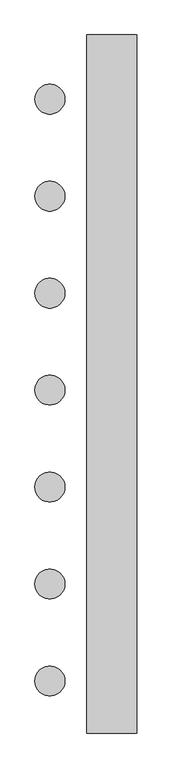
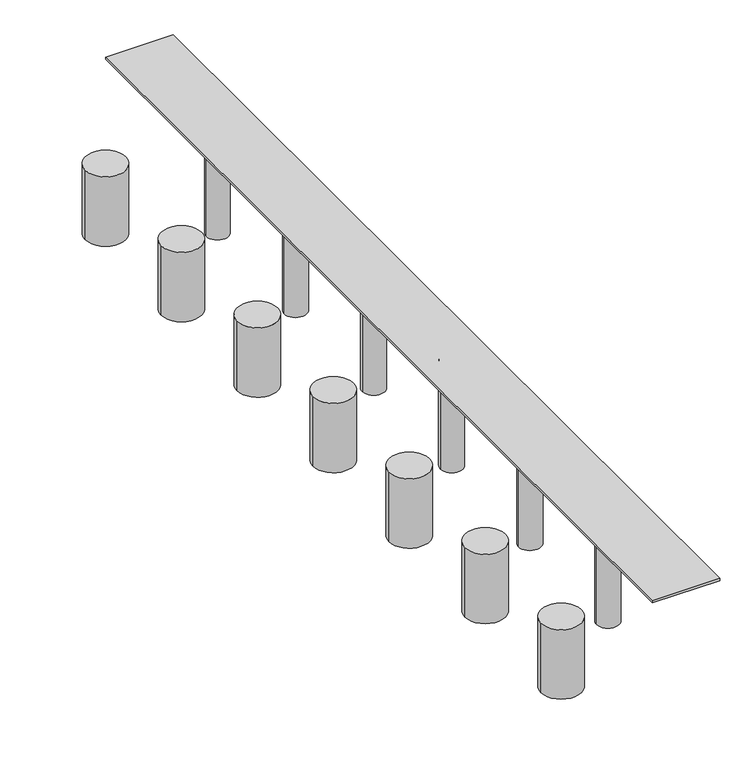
"""IFC4 building model written with IfcOpenShell, lengths in millimetres: proxy geometry, 常规模型 1 : 常规模型 1."""

from ifc_helpers import new_model, si_unit, point, frame, frame_2d, origin, origin_with_axes, place, context, project, spatial, polyline, circle_curve, trimmed, segment, composite_curve, outline, extrude, source, transform, mapped, element, save


def generic_models_b0d3c842(model_context):
    return source(origin(), model_context, "Body", "SweptSolid", [
        extrude(outline(composite_curve([segment(trimmed(circle_curve(frame_2d((26820.8784001, -5032.1006074)), 180.0), [point((26640.8784001, -5032.1006074))], [point((27000.8784001, -5032.1006074))], False, "CARTESIAN"), True, "CONTINUOUS"), segment(trimmed(circle_curve(frame_2d((26820.8784001, -5032.1006074)), 180.0), [point((27000.8784001, -5032.1006074))], [point((26640.8784001, -5032.1006074))], False, "CARTESIAN"), True, "CONTINUOUS")], self_intersect=False)), origin_with_axes(), (0.0, 0.0, 1.0), 650.0),
        extrude(outline(composite_curve([segment(trimmed(circle_curve(frame_2d((26820.8784001, -3865.4339407)), 180.0), [point((26640.8784001, -3865.4339407))], [point((27000.8784001, -3865.4339407))], False, "CARTESIAN"), True, "CONTINUOUS"), segment(trimmed(circle_curve(frame_2d((26820.8784001, -3865.4339407)), 180.0), [point((27000.8784001, -3865.4339407))], [point((26640.8784001, -3865.4339407))], False, "CARTESIAN"), True, "CONTINUOUS")], self_intersect=False)), origin_with_axes(), (0.0, 0.0, 1.0), 650.0),
        extrude(outline(composite_curve([segment(trimmed(circle_curve(frame_2d((26820.8784001, -2698.767274)), 180.0), [point((26640.8784001, -2698.767274))], [point((27000.8784001, -2698.767274))], False, "CARTESIAN"), True, "CONTINUOUS"), segment(trimmed(circle_curve(frame_2d((26820.8784001, -2698.767274)), 180.0), [point((27000.8784001, -2698.767274))], [point((26640.8784001, -2698.767274))], False, "CARTESIAN"), True, "CONTINUOUS")], self_intersect=False)), origin_with_axes(), (0.0, 0.0, 1.0), 650.0),
        extrude(outline(composite_curve([segment(trimmed(circle_curve(frame_2d((26820.8784001, -1532.1006074)), 180.0), [point((26640.8784001, -1532.1006074))], [point((27000.8784001, -1532.1006074))], False, "CARTESIAN"), True, "CONTINUOUS"), segment(trimmed(circle_curve(frame_2d((26820.8784001, -1532.1006074)), 180.0), [point((27000.8784001, -1532.1006074))], [point((26640.8784001, -1532.1006074))], False, "CARTESIAN"), True, "CONTINUOUS")], self_intersect=False)), origin_with_axes(), (0.0, 0.0, 1.0), 650.0),
        extrude(outline(composite_curve([segment(trimmed(circle_curve(frame_2d((26820.8784001, -365.4339407)), 180.0), [point((26640.8784001, -365.4339407))], [point((27000.8784001, -365.4339407))], False, "CARTESIAN"), True, "CONTINUOUS"), segment(trimmed(circle_curve(frame_2d((26820.8784001, -365.4339407)), 180.0), [point((27000.8784001, -365.4339407))], [point((26640.8784001, -365.4339407))], False, "CARTESIAN"), True, "CONTINUOUS")], self_intersect=False)), origin_with_axes(), (0.0, 0.0, 1.0), 650.0),
        extrude(outline(composite_curve([segment(trimmed(circle_curve(frame_2d((26820.8784001, -6198.767274)), 180.0), [point((26640.8784001, -6198.767274))], [point((27000.8784001, -6198.767274))], False, "CARTESIAN"), True, "CONTINUOUS"), segment(trimmed(circle_curve(frame_2d((26820.8784001, -6198.767274)), 180.0), [point((27000.8784001, -6198.767274))], [point((26640.8784001, -6198.767274))], False, "CARTESIAN"), True, "CONTINUOUS")], self_intersect=False)), origin_with_axes(), (0.0, 0.0, 1.0), 650.0),
        extrude(outline(composite_curve([segment(trimmed(circle_curve(frame_2d((26820.8784001, 801.232726)), 180.0), [point((26640.8784001, 801.232726))], [point((27000.8784001, 801.232726))], False, "CARTESIAN"), True, "CONTINUOUS"), segment(trimmed(circle_curve(frame_2d((26820.8784001, 801.232726)), 180.0), [point((27000.8784001, 801.232726))], [point((26640.8784001, 801.232726))], False, "CARTESIAN"), True, "CONTINUOUS")], self_intersect=False)), origin_with_axes(), (0.0, 0.0, 1.0), 650.0),
        extrude(outline(composite_curve([segment(trimmed(circle_curve(frame_2d((27567.3316161, 375.9571772)), 100.0), [point((27467.3316161, 375.9571772))], [point((27667.3316161, 375.9571772))], False, "CARTESIAN"), True, "CONTINUOUS"), segment(trimmed(circle_curve(frame_2d((27567.3316161, 375.9571772)), 100.0), [point((27667.3316161, 375.9571772))], [point((27467.3316161, 375.9571772))], False, "CARTESIAN"), True, "CONTINUOUS")], self_intersect=False)), origin_with_axes(), (0.0, 0.0, 1.0), 1000.0),
        extrude(outline(composite_curve([segment(trimmed(circle_curve(frame_2d((27567.3316161, -824.0428228)), 100.0), [point((27467.3316161, -824.0428228))], [point((27667.3316161, -824.0428228))], False, "CARTESIAN"), True, "CONTINUOUS"), segment(trimmed(circle_curve(frame_2d((27567.3316161, -824.0428228)), 100.0), [point((27667.3316161, -824.0428228))], [point((27467.3316161, -824.0428228))], False, "CARTESIAN"), True, "CONTINUOUS")], self_intersect=False)), origin_with_axes(), (0.0, 0.0, 1.0), 1000.0),
        extrude(outline(composite_curve([segment(trimmed(circle_curve(frame_2d((27567.3316161, -2024.0428228)), 100.0), [point((27467.3316161, -2024.0428228))], [point((27667.3316161, -2024.0428228))], False, "CARTESIAN"), True, "CONTINUOUS"), segment(trimmed(circle_curve(frame_2d((27567.3316161, -2024.0428228)), 100.0), [point((27667.3316161, -2024.0428228))], [point((27467.3316161, -2024.0428228))], False, "CARTESIAN"), True, "CONTINUOUS")], self_intersect=False)), origin_with_axes(), (0.0, 0.0, 1.0), 1000.0),
        extrude(outline(composite_curve([segment(trimmed(circle_curve(frame_2d((27567.3316161, -3224.0428228)), 100.0), [point((27467.3316161, -3224.0428228))], [point((27667.3316161, -3224.0428228))], False, "CARTESIAN"), True, "CONTINUOUS"), segment(trimmed(circle_curve(frame_2d((27567.3316161, -3224.0428228)), 100.0), [point((27667.3316161, -3224.0428228))], [point((27467.3316161, -3224.0428228))], False, "CARTESIAN"), True, "CONTINUOUS")], self_intersect=False)), origin_with_axes(), (0.0, 0.0, 1.0), 1000.0),
        extrude(outline(composite_curve([segment(trimmed(circle_curve(frame_2d((27567.3316161, -4424.0428228)), 100.0), [point((27467.3316161, -4424.0428228))], [point((27667.3316161, -4424.0428228))], False, "CARTESIAN"), True, "CONTINUOUS"), segment(trimmed(circle_curve(frame_2d((27567.3316161, -4424.0428228)), 100.0), [point((27667.3316161, -4424.0428228))], [point((27467.3316161, -4424.0428228))], False, "CARTESIAN"), True, "CONTINUOUS")], self_intersect=False)), origin_with_axes(), (0.0, 0.0, 1.0), 1000.0),
        extrude(outline(composite_curve([segment(trimmed(circle_curve(frame_2d((27567.3316161, -5624.0428228)), 100.0), [point((27467.3316161, -5624.0428228))], [point((27667.3316161, -5624.0428228))], False, "CARTESIAN"), True, "CONTINUOUS"), segment(trimmed(circle_curve(frame_2d((27567.3316161, -5624.0428228)), 100.0), [point((27667.3316161, -5624.0428228))], [point((27467.3316161, -5624.0428228))], False, "CARTESIAN"), True, "CONTINUOUS")], self_intersect=False)), origin_with_axes(), (0.0, 0.0, 1.0), 1000.0),
        extrude(outline(polyline([(27867.3316161, 1574.535821), (27867.3316161, -6825.464179), (27267.3316161, -6825.464179), (27267.3316161, 1574.535821), (27867.3316161, 1574.535821)])), frame((0.0, 0.0, 1000.0), z_axis=(0.0, 0.0, 1.0), x_axis=(1.0, 0.0, 0.0)), (0.0, 0.0, 1.0), 20.0),
    ])


if __name__ == "__main__":
    model = new_model("IFC4")
    model_context = context("Model", 3, world=origin())
    ifc_project = project(units=[si_unit("LENGTHUNIT", "METRE", prefix="MILLI")], contexts=[model_context])
    site = spatial("IfcSite", under=ifc_project)
    building = spatial("IfcBuilding", under=site)
    placement = place(None, origin())
    generic_models_shape = generic_models_b0d3c842(model_context)
    element("IfcBuildingElementProxy", 1, Name="常规模型 1 : 常规模型 1", ObjectType="常规模型 1 : 常规模型 1", at=placement, inside=building, context=model_context, shape_type="MappedRepresentation", body=[
        mapped(generic_models_shape, transform((0.0, 0.0, 0.0), x_axis=(1.0, 0.0, 0.0), y_axis=(0.0, 1.0, 0.0), z_axis=(0.0, 0.0, 1.0))),
    ])
    save(model, "model.ifc")
